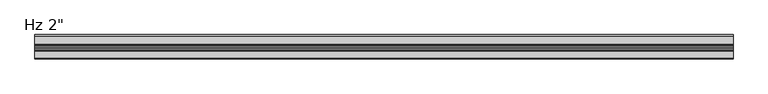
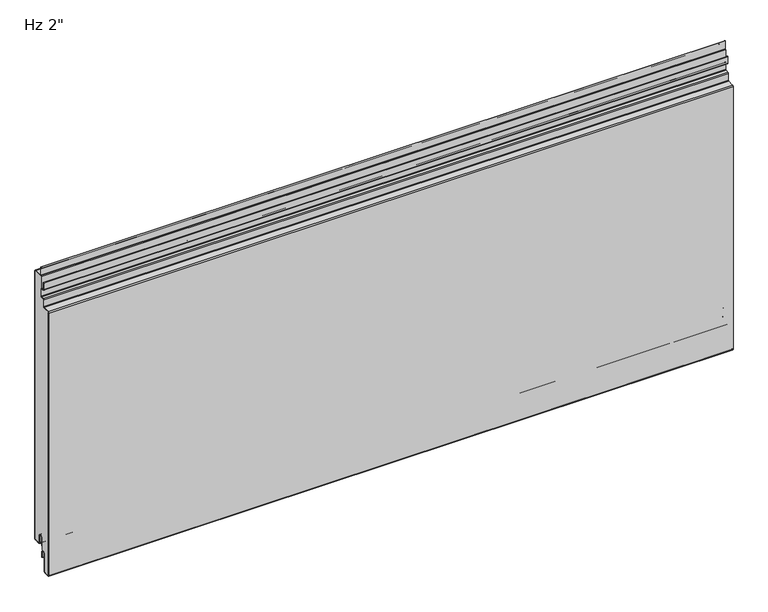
"""IFC4 building model written with IfcOpenShell, lengths in millimetres: plate geometry."""

import ifcopenshell
import ifcopenshell.guid

model = None  # the IFC model being written
_history = None  # IfcOwnerHistory: only IFC2X3 demands one
_inside = {}  # id of a spatial element -> (the spatial element, [elements in it])
_under = {}  # id of a project, library or spatial element -> (it, [spatial elements below it])
_declared = {}  # id of a project -> (the project, [libraries it declares])
_typed = {}  # id of a type object -> (the type object, [elements of that type])
_made_of = {}  # id of a material, layer set ... -> (it, [elements and type objects made of it])


def new_model(schema):
    """Start an empty IFC model of exactly this schema.

    Asked for "IFC4X3", IfcOpenShell would pick the latest addendum, in which some entities
    have other attributes; the version numbers below select the first issue.
    IFC2X3 requires an IfcOwnerHistory on every rooted entity: one is made here for all.
    """
    global model, _history
    if schema == "IFC4X3":
        model = ifcopenshell.file(schema_version=(4, 3, 0, 0))
    else:
        model = ifcopenshell.file(schema=schema)
    _inside.clear()
    _under.clear()
    _declared.clear()
    _typed.clear()
    _made_of.clear()
    _history = None
    if model.schema == "IFC2X3":
        org = make("IfcOrganization", Name="unknown")
        user = make(
            "IfcPersonAndOrganization",
            ThePerson=make("IfcPerson", FamilyName="unknown"),
            TheOrganization=org,
        )
        app = make(
            "IfcApplication",
            ApplicationDeveloper=org,
            Version="unknown",
            ApplicationFullName="unknown",
            ApplicationIdentifier="unknown",
        )
        _history = make(
            "IfcOwnerHistory",
            OwningUser=user,
            OwningApplication=app,
            ChangeAction="ADDED",
            CreationDate=0,
        )
    return model


def make(cls, **values):
    """One entity of the class cls with the attributes given. An attribute that is None is left unset."""
    return model.create_entity(
        cls, **{name: value for name, value in values.items() if value is not None}
    )


def rooted(cls, **values):
    """An entity with a GlobalId (a new one), such as an element, a storey or a relation."""
    return make(cls, GlobalId=ifcopenshell.guid.new(), OwnerHistory=_history, **values)


def si_unit(unit_type, name, prefix=None):
    """IfcSIUnit, for example si_unit("LENGTHUNIT", "METRE", prefix="MILLI")."""
    return make("IfcSIUnit", UnitType=unit_type, Prefix=prefix, Name=name)


def assignment(units):
    """IfcUnitAssignment: the units of a project."""
    return None if units is None else make("IfcUnitAssignment", Units=units)


def point(xyz):
    """IfcCartesianPoint."""
    return None if xyz is None else make("IfcCartesianPoint", Coordinates=xyz)


def direction(xyz):
    """IfcDirection."""
    return None if xyz is None else make("IfcDirection", DirectionRatios=xyz)


def frame(location, z_axis=None, x_axis=None):
    """IfcAxis2Placement3D, a coordinate frame: its origin and axes. An axis left out is left unset."""
    return make(
        "IfcAxis2Placement3D",
        Location=point(location),
        Axis=direction(z_axis),
        RefDirection=direction(x_axis),
    )


def frame_2d(location, x_axis=None):
    """IfcAxis2Placement2D, a coordinate frame in the plane: its origin and x axis."""
    return make(
        "IfcAxis2Placement2D", Location=point(location), RefDirection=direction(x_axis)
    )


def origin():
    """The frame at (0, 0, 0) with its axes left unset."""
    return frame((0.0, 0.0, 0.0))


def place(relative_to, where):
    """IfcLocalPlacement: puts the frame where relative to a parent placement (None: the world)."""
    return make(
        "IfcLocalPlacement", PlacementRelTo=relative_to, RelativePlacement=where
    )


def context(
    kind, dimensions, precision=None, world=None, true_north=None, identifier=None
):
    """IfcGeometricRepresentationContext, for example the 3D "Model" context."""
    return make(
        "IfcGeometricRepresentationContext",
        ContextIdentifier=identifier,
        ContextType=kind,
        CoordinateSpaceDimension=dimensions,
        Precision=precision,
        WorldCoordinateSystem=world,
        TrueNorth=true_north,
    )


def project(units=None, contexts=None):
    """IfcProject with its units and contexts."""
    return rooted(
        "IfcProject",
        Name="project",
        RepresentationContexts=contexts,
        UnitsInContext=assignment(units),
    )


def spatial(cls, under=None, at=None, **own):
    """A site, building, storey or space (cls), placed at a placement, below another one or the project."""
    s = rooted(cls, ObjectPlacement=at, **own)
    if under is not None:
        _under.setdefault(under.id(), (under, []))[1].append(s)
    return s


def polyline(points):
    """IfcPolyline through the points."""
    return make("IfcPolyline", Points=[point(p) for p in points])


def circle_curve(where, radius):
    """IfcCircle in the frame where."""
    return make("IfcCircle", Position=where, Radius=radius)


def ellipse_curve(where, semi_axis1, semi_axis2):
    """IfcEllipse in the frame where."""
    return make(
        "IfcEllipse", Position=where, SemiAxis1=semi_axis1, SemiAxis2=semi_axis2
    )


def trimmed(basis, trim1, trim2, sense, master):
    """IfcTrimmedCurve: the piece of a basis curve between two trims."""
    return make(
        "IfcTrimmedCurve",
        BasisCurve=basis,
        Trim1=trim1,
        Trim2=trim2,
        SenseAgreement=sense,
        MasterRepresentation=master,
    )


def segment(curve, same_sense, transition):
    """IfcCompositeCurveSegment."""
    return make(
        "IfcCompositeCurveSegment",
        Transition=transition,
        SameSense=same_sense,
        ParentCurve=curve,
    )


def composite_curve(segments, self_intersect=None):
    """IfcCompositeCurve: segments joined end to end."""
    return make("IfcCompositeCurve", Segments=segments, SelfIntersect=self_intersect)


def outline(outer, holes=None, kind="AREA"):
    """IfcArbitraryClosedProfileDef: a profile drawn as a closed curve; with holes, ...WithVoids."""
    if holes is None:
        return make("IfcArbitraryClosedProfileDef", ProfileType=kind, OuterCurve=outer)
    return make(
        "IfcArbitraryProfileDefWithVoids",
        ProfileType=kind,
        OuterCurve=outer,
        InnerCurves=holes,
    )


def extrude(swept, where, along, depth):
    """IfcExtrudedAreaSolid: the profile swept, set in the frame where, extruded along a direction by depth."""
    return make(
        "IfcExtrudedAreaSolid",
        SweptArea=swept,
        Position=where,
        ExtrudedDirection=direction(along),
        Depth=depth,
    )


def shape(context_of_items, identifier, shape_type, items):
    """IfcShapeRepresentation: the items that make up one representation, for example the "Body"."""
    return make(
        "IfcShapeRepresentation",
        ContextOfItems=context_of_items,
        RepresentationIdentifier=identifier,
        RepresentationType=shape_type,
        Items=items,
    )


def source(mapping_origin, context_of_items, identifier, shape_type, items):
    """IfcRepresentationMap: a shape defined once, which mapped items show again and again."""
    return make(
        "IfcRepresentationMap",
        MappingOrigin=mapping_origin,
        MappedRepresentation=shape(context_of_items, identifier, shape_type, items),
    )


def transform(
    local_origin,
    x_axis=None,
    y_axis=None,
    z_axis=None,
    scale=None,
    scale2=None,
    scale3=None,
    uniform=True,
):
    """IfcCartesianTransformationOperator3D, or its non-uniform kind. x_axis, y_axis, z_axis: its Axis1, 2, 3."""
    if uniform:
        return make(
            "IfcCartesianTransformationOperator3D",
            Axis1=direction(x_axis),
            Axis2=direction(y_axis),
            LocalOrigin=point(local_origin),
            Scale=scale,
            Axis3=direction(z_axis),
        )
    return make(
        "IfcCartesianTransformationOperator3DnonUniform",
        Axis1=direction(x_axis),
        Axis2=direction(y_axis),
        LocalOrigin=point(local_origin),
        Scale=scale,
        Axis3=direction(z_axis),
        Scale2=scale2,
        Scale3=scale3,
    )


def mapped(mapping_source, mapping_target):
    """IfcMappedItem: shows the shape of a source again, moved by a transform."""
    return make(
        "IfcMappedItem", MappingSource=mapping_source, MappingTarget=mapping_target
    )


def made_of(thing, what):
    """Note that an element or type object is made of a material, layer set ...; save() writes the relation."""
    if what is not None:
        _made_of.setdefault(what.id(), (what, []))[1].append(thing)
    return thing


def element(
    cls,
    number,
    at=None,
    inside=None,
    cuts=None,
    type_object=None,
    material=None,
    context=None,
    identifier="Body",
    shape_type=None,
    held_by="IfcProductDefinitionShape",
    body=None,
    shapes=None,
    **own,
):
    """One element of the class cls, such as IfcWall. Its Tag is "e" and its number.

    at: its placement. inside: the storey or other place that contains it. cuts: it is an
    opening in that element (IfcRelVoidsElement). A single representation is given by context,
    identifier, shape_type and body (its items); several are given by shapes. held_by: the class
    of the entity that holds the representations. save() writes the other relations.
    """
    e = rooted(cls, Tag="e%d" % number, ObjectPlacement=at, **own)
    if body is not None:
        shapes = [shape(context, identifier, shape_type, body)]
    if shapes is not None:
        e.Representation = make(held_by, Representations=shapes)
    if inside is not None:
        _inside.setdefault(inside.id(), (inside, []))[1].append(e)
    if cuts is not None:
        rooted(
            "IfcRelVoidsElement", RelatingBuildingElement=cuts, RelatedOpeningElement=e
        )
    if type_object is not None:
        _typed.setdefault(type_object.id(), (type_object, []))[1].append(e)
    return made_of(e, material)


def aggregate(whole, parts):
    """IfcRelAggregates: a whole, such as a stair, and the parts it consists of."""
    return rooted("IfcRelAggregates", RelatingObject=whole, RelatedObjects=parts)


def save(model, path):
    """Write the relations noted so far, then the file.

    IfcRelAggregates (storeys below a building ...), IfcRelContainedInSpatialStructure (elements
    in a storey), IfcRelDefinesByType, IfcRelAssociatesMaterial and IfcRelDeclares: one each for
    every whole, place, type object, material and project.
    """
    for whole, parts in _under.values():
        aggregate(whole, parts)
    for where, things in _inside.values():
        rooted(
            "IfcRelContainedInSpatialStructure",
            RelatedElements=things,
            RelatingStructure=where,
        )
    for kind, things in _typed.values():
        rooted("IfcRelDefinesByType", RelatedObjects=things, RelatingType=kind)
    for what, things in _made_of.values():
        rooted("IfcRelAssociatesMaterial", RelatedObjects=things, RelatingMaterial=what)
    for by, libraries in _declared.values():
        rooted("IfcRelDeclares", RelatingContext=by, RelatedDefinitions=libraries)
    model.write(path)


def plane_surface(at):
    """IfcPlane: the flat surface through the origin of the frame at, square to its z axis."""
    return make("IfcPlane", Position=at)


def cylinder_surface(at, radius):
    """IfcCylindricalSurface: all points at the distance radius from the z axis of the frame at."""
    return make("IfcCylindricalSurface", Position=at, Radius=radius)


def revolved_surface(curve, axis_point, axis_direction):
    """IfcSurfaceOfRevolution: the curve turned about the line through axis_point along axis_direction."""
    return make(
        "IfcSurfaceOfRevolution",
        SweptCurve=make("IfcArbitraryOpenProfileDef", ProfileType="CURVE", Curve=curve),
        AxisPosition=make("IfcAxis1Placement", Location=point(axis_point), Axis=direction(axis_direction)),
    )


def extruded_surface(curve, direction_of_extrusion, depth):
    """IfcSurfaceOfLinearExtrusion: the curve pushed along a direction by depth."""
    return make(
        "IfcSurfaceOfLinearExtrusion",
        SweptCurve=make("IfcArbitraryOpenProfileDef", ProfileType="CURVE", Curve=curve),
        ExtrudedDirection=direction(direction_of_extrusion),
        Depth=depth,
    )


def advanced_brep(points, edges, surfaces, faces):
    """IfcAdvancedBrep: a solid bounded by faces that lie on surfaces and meet in shared edges.

    An edge is (start, end): straight between two places in points (the first is 0);
    or (start, end, curve); or (start, end, curve, False) where it runs against its curve.
    A face is (place in surfaces, loops), or (place, loops, False) where it looks against
    its surface's normal. A loop lists edges by number (the first is 1), with a minus sign
    where the edge is run from its end to its start. The first loop is the outer one.
    """
    corners = [point(p) for p in points]
    vertices = [make("IfcVertexPoint", VertexGeometry=c) for c in corners]
    made = []
    for start, end, *more in edges:
        made.append(
            make(
                "IfcEdgeCurve",
                EdgeStart=vertices[start],
                EdgeEnd=vertices[end],
                EdgeGeometry=more[0] if more else make("IfcPolyline", Points=[corners[start], corners[end]]),
                SameSense=more[1] if len(more) > 1 else True,
            )
        )
    hull = []
    for where, loops, *sense in faces:
        bounds = []
        for j, loop in enumerate(loops):
            ring = [make("IfcOrientedEdge", EdgeElement=made[abs(k) - 1], Orientation=k > 0) for k in loop]
            bounds.append(
                make(
                    "IfcFaceOuterBound" if j == 0 else "IfcFaceBound",
                    Bound=make("IfcEdgeLoop", EdgeList=ring),
                    Orientation=True,
                )
            )
        hull.append(make("IfcAdvancedFace", Bounds=bounds, FaceSurface=surfaces[where], SameSense=sense[0] if sense else True))
    return make("IfcAdvancedBrep", Outer=make("IfcClosedShell", CfsFaces=hull))


def plate_8f768d0c(model_context):
    return source(origin(), model_context, "Body", "SolidModel", [
        extrude(outline(composite_curve([segment(polyline([(-22.8125, 564.5620957), (-22.8125, 607.80625), (-2.38125, 607.80625)]), True, "CONTINUOUS"), segment(trimmed(circle_curve(frame_2d((-2.38125, 606.425)), 1.38125), [point((-2.38125, 607.80625))], [point((-1.0, 606.425))], False, "CARTESIAN"), True, "CONTINUOUS"), segment(polyline([(-1.0, 606.425), (-1.0, 3.175)]), True, "CONTINUOUS"), segment(trimmed(circle_curve(frame_2d((-2.38125, 3.175)), 1.38125), [point((-1.0, 3.175))], [point((-2.38125, 1.79375))], False, "CARTESIAN"), True, "CONTINUOUS"), segment(polyline([(-2.38125, 1.79375), (-15.08125, 1.79375)]), True, "CONTINUOUS"), segment(trimmed(circle_curve(frame_2d((-15.08125, 3.175)), 1.38125), [point((-15.08125, 1.79375))], [point((-16.4625, 3.175))], False, "CARTESIAN"), True, "CONTINUOUS"), segment(polyline([(-16.4625, 3.175), (-16.4625, 19.05)]), True, "CONTINUOUS"), segment(trimmed(circle_curve(frame_2d((-21.43125, 19.05)), 4.96875), [point((-16.4625, 19.05))], [point((-26.4, 19.05))], True, "CARTESIAN"), True, "CONTINUOUS"), segment(polyline([(-26.4, 19.05), (-26.4, -6.9375), (-30.95625, -6.9375)]), True, "CONTINUOUS"), segment(trimmed(circle_curve(frame_2d((-30.95625, -11.90625)), 4.96875), [point((-30.95625, -6.9375))], [point((-35.925, -11.90625))], True, "CARTESIAN"), True, "CONTINUOUS"), segment(polyline([(-35.925, -11.90625), (-35.925, -50.0895546)]), True, "CONTINUOUS"), segment(trimmed(circle_curve(frame_2d((-37.30625, -50.0895546)), 1.38125), [point((-35.925, -50.0895546))], [point((-37.233961, -51.4689117))], False, "CARTESIAN"), True, "CONTINUOUS"), segment(polyline([(-37.233961, -51.4689117), (-48.346461, -52.0512931)]), True, "CONTINUOUS"), segment(trimmed(circle_curve(frame_2d((-48.41875, -50.6719361)), 1.38125), [point((-48.346461, -52.0512931))], [point((-49.8, -50.6719361))], False, "CARTESIAN"), True, "CONTINUOUS"), segment(polyline([(-49.8, -50.6719361), (-49.8, 541.4447607)]), True, "CONTINUOUS"), segment(trimmed(circle_curve(frame_2d((-48.41875, 541.4447607)), 1.38125), [point((-49.8, 541.4447607))], [point((-48.491039, 542.8241177))], False, "CARTESIAN"), True, "CONTINUOUS"), segment(polyline([(-48.491039, 542.8241177), (-34.7895807, 543.5421807)]), True, "CONTINUOUS"), segment(trimmed(circle_curve(frame_2d((-34.925, 546.1261347)), 2.5875), [point((-34.7895807, 543.5421807))], [point((-32.3375, 546.1261347))], True, "CARTESIAN"), True, "CONTINUOUS"), segment(polyline([(-32.3375, 546.1261347), (-32.3375, 560.2967085)]), True, "CONTINUOUS"), segment(trimmed(circle_curve(frame_2d((-30.95625, 560.2967085)), 1.38125), [point((-32.3375, 560.2967085))], [point((-31.028539, 561.6760655))], False, "CARTESIAN"), True, "CONTINUOUS"), segment(polyline([(-31.028539, 561.6760655), (-25.2645807, 561.9781418)]), True, "CONTINUOUS"), segment(trimmed(circle_curve(frame_2d((-25.4, 564.5620957)), 2.5875), [point((-25.2645807, 561.9781418))], [point((-22.8125, 564.5620957))], True, "CARTESIAN"), True, "CONTINUOUS")], self_intersect=False)), frame((-730.0, 0.0, 0.0), z_axis=(1.0, 0.0, 0.0), x_axis=(0.0, 1.0, 0.0)), (0.0, 0.0, 1.0), 1460.0),
        extrude(outline(composite_curve([segment(polyline([(-25.4, 0.79375), (-26.4, 0.79375), (-26.4, 19.05)]), True, "CONTINUOUS"), segment(trimmed(circle_curve(frame_2d((-21.43125, 19.05)), 4.96875), [point((-26.4, 19.05))], [point((-16.4625, 19.05))], False, "CARTESIAN"), True, "CONTINUOUS"), segment(polyline([(-16.4625, 19.05), (-16.4625, 3.175)]), True, "CONTINUOUS"), segment(trimmed(circle_curve(frame_2d((-15.08125, 3.175)), 1.38125), [point((-16.4625, 3.175))], [point((-15.08125, 1.79375))], True, "CARTESIAN"), True, "CONTINUOUS"), segment(polyline([(-15.08125, 1.79375), (-2.38125, 1.79375)]), True, "CONTINUOUS"), segment(trimmed(circle_curve(frame_2d((-2.38125, 3.175)), 1.38125), [point((-2.38125, 1.79375))], [point((-1.0, 3.175))], True, "CARTESIAN"), True, "CONTINUOUS"), segment(polyline([(-1.0, 3.175), (-1.0, 606.425)]), True, "CONTINUOUS"), segment(trimmed(circle_curve(frame_2d((-2.38125, 606.425)), 1.38125), [point((-1.0, 606.425))], [point((-2.38125, 607.80625))], True, "CARTESIAN"), True, "CONTINUOUS"), segment(polyline([(-2.38125, 607.80625), (-19.446875, 607.80625)]), True, "CONTINUOUS"), segment(trimmed(circle_curve(frame_2d((-19.446875, 610.39375)), 2.5875), [point((-19.446875, 607.80625))], [point((-22.034375, 610.39375))], False, "CARTESIAN"), True, "CONTINUOUS"), segment(polyline([(-22.034375, 610.39375), (-22.034375, 627.85625), (-21.034375, 627.85625), (-21.034375, 610.39375)]), True, "CONTINUOUS"), segment(trimmed(circle_curve(frame_2d((-19.446875, 610.39375)), 1.5875), [point((-21.034375, 610.39375))], [point((-19.446875, 608.80625))], True, "CARTESIAN"), True, "CONTINUOUS"), segment(polyline([(-19.446875, 608.80625), (-2.38125, 608.80625)]), True, "CONTINUOUS"), segment(trimmed(circle_curve(frame_2d((-2.38125, 606.425)), 2.38125), [point((-2.38125, 608.80625))], [point((0.0, 606.425))], False, "CARTESIAN"), True, "CONTINUOUS"), segment(polyline([(0.0, 606.425), (0.0, 3.175)]), True, "CONTINUOUS"), segment(trimmed(circle_curve(frame_2d((-2.38125, 3.175)), 2.38125), [point((0.0, 3.175))], [point((-2.38125, 0.79375))], False, "CARTESIAN"), True, "CONTINUOUS"), segment(polyline([(-2.38125, 0.79375), (-15.08125, 0.79375)]), True, "CONTINUOUS"), segment(trimmed(circle_curve(frame_2d((-15.08125, 3.175)), 2.38125), [point((-15.08125, 0.79375))], [point((-17.4625, 3.175))], False, "CARTESIAN"), True, "CONTINUOUS"), segment(polyline([(-17.4625, 3.175), (-17.4625, 19.05)]), True, "CONTINUOUS"), segment(trimmed(circle_curve(frame_2d((-21.43125, 19.05)), 3.96875), [point((-17.4625, 19.05))], [point((-25.4, 19.05))], True, "CARTESIAN"), True, "CONTINUOUS"), segment(polyline([(-25.4, 19.05), (-25.4, 0.79375)]), True, "CONTINUOUS")], self_intersect=False)), frame((-730.0, 0.0, 0.0), z_axis=(1.0, 0.0, 0.0), x_axis=(0.0, 1.0, 0.0)), (0.0, 0.0, 1.0), 1460.0),
        advanced_brep(
        [(-730.0, -25.4, -23.2314549), (-730.0, -26.9875, -23.2314549), (-730.0, -26.9875, -11.9205174), (-730.0, -34.925, -11.9205174), (-730.0, -34.925, -50.1038221), (-730.0, -37.181625, -52.4818086), (-730.0, -48.294125, -53.0641901), (-730.0, -50.8, -50.6862035), (-730.0, -50.8, 541.4447607), (-730.0, -48.543375, 543.8227473), (-730.0, -34.8419167, 544.5408103), (-730.0, -33.3375, 546.1261347), (-730.0, -33.3375, 560.2824411), (-730.0, -31.080875, 562.6604276), (-730.0, -25.3169167, 562.9625039), (-730.0, -23.8125, 564.5478283), (-730.0, -23.8125, 579.4232326), (-730.0, -25.4, 581.0107326), (-730.0, -29.5671875, 581.0107326), (-730.0, -31.9484375, 583.3919826), (-730.0, -31.9484375, 597.8836032), (-730.0, -30.1546875, 597.8836032), (-730.0, -30.1546875, 588.1544826), (-730.0, -30.9484375, 588.1544826), (-730.0, -30.9484375, 583.3919826), (-730.0, -29.5671875, 582.0107326), (-730.0, -25.4, 582.0107326), (-730.0, -22.8125, 579.4232326), (-730.0, -22.8125, 564.5478283), (-730.0, -25.2645807, 561.9638744), (-730.0, -31.028539, 561.6617981), (-730.0, -32.3375, 560.2824411), (-730.0, -32.3375, 546.1261347), (-730.0, -34.7895807, 543.5421807), (-730.0, -48.491039, 542.8241177), (-730.0, -49.8, 541.4447607), (-730.0, -49.8, -50.6862035), (-730.0, -48.346461, -52.0655606), (-730.0, -37.233961, -51.4831791), (-730.0, -35.925, -50.1038221), (-730.0, -35.925, -11.9205174), (-730.0, -25.9875, -11.9205174), (-730.0, -26.19375, -13.5080174), (-730.0, -25.4, -13.5080174), (730.0, -25.4, -23.2314549), (730.0, -25.4, -13.5080174), (730.0, -26.19375, -13.5080174), (730.0, -25.9875, -11.9205174), (730.0, -35.925, -11.9205174), (730.0, -35.925, -50.1038221), (730.0, -37.233961, -51.4831791), (730.0, -48.346461, -52.0655606), (730.0, -49.8, -50.6862035), (730.0, -49.8, 541.4447607), (730.0, -48.491039, 542.8241177), (730.0, -34.7895807, 543.5421807), (730.0, -32.3375, 546.1261347), (730.0, -32.3375, 560.2824411), (730.0, -31.028539, 561.6617981), (730.0, -25.2645807, 561.9638744), (730.0, -22.8125, 564.5478283), (730.0, -22.8125, 579.4232326), (730.0, -25.4, 582.0107326), (730.0, -29.5671875, 582.0107326), (730.0, -30.9484375, 583.3919826), (730.0, -30.9484375, 588.1544826), (730.0, -30.1546875, 588.1544826), (730.0, -30.1546875, 597.8836032), (730.0, -31.9484375, 597.8836032), (730.0, -31.9484375, 583.3919826), (730.0, -29.5671875, 581.0107326), (730.0, -25.4, 581.0107326), (730.0, -23.8125, 579.4232326), (730.0, -23.8125, 564.5478283), (730.0, -25.3169167, 562.9625039), (730.0, -31.080875, 562.6604276), (730.0, -33.3375, 560.2824411), (730.0, -33.3375, 546.1261347), (730.0, -34.8419167, 544.5408103), (730.0, -48.543375, 543.8227473), (730.0, -50.8, 541.4447607), (730.0, -50.8, -50.6862035), (730.0, -48.294125, -53.0641901), (730.0, -37.181625, -52.4818086), (730.0, -34.925, -50.1038221), (730.0, -34.925, -11.9205174), (730.0, -26.9875, -11.9205174), (730.0, -26.9875, -23.2314549)],
        [
            (0, 1, circle_curve(frame((-730.0, -26.19375, -23.2314549), z_axis=(-1.0, 0.0, 0.0), x_axis=(0.0, 0.0, 1.0)), 0.79375)),
            (1, 2),
            (2, 3, circle_curve(frame((-730.0, -30.95625, -11.9205174), z_axis=(1.0, 0.0, 0.0), x_axis=(0.0, 0.0, 1.0)), 3.96875)),
            (3, 4),
            (4, 5, circle_curve(frame((-730.0, -37.30625, -50.1038221), z_axis=(-1.0, 0.0, 0.0), x_axis=(0.0, 0.0, 1.0)), 2.38125)),
            (5, 6),
            (6, 7, circle_curve(frame((-730.0, -48.41875, -50.6862035), z_axis=(-1.0, 0.0, 0.0), x_axis=(0.0, 0.0, 1.0)), 2.38125)),
            (7, 8),
            (8, 9, circle_curve(frame((-730.0, -48.41875, 541.4447607), z_axis=(-1.0, 0.0, 0.0), x_axis=(0.0, 0.0, 1.0)), 2.38125)),
            (9, 10),
            (10, 11, circle_curve(frame((-730.0, -34.925, 546.1261347), z_axis=(1.0, 0.0, 0.0), x_axis=(0.0, 0.0, 1.0)), 1.5875)),
            (11, 12),
            (12, 13, circle_curve(frame((-730.0, -30.95625, 560.2824411), z_axis=(-1.0, 0.0, 0.0), x_axis=(0.0, 0.0, 1.0)), 2.38125)),
            (13, 14),
            (14, 15, circle_curve(frame((-730.0, -25.4, 564.5478283), z_axis=(1.0, 0.0, 0.0), x_axis=(0.0, 0.0, 1.0)), 1.5875)),
            (15, 16),
            (16, 17, circle_curve(frame((-730.0, -25.4, 579.4232326), z_axis=(1.0, 0.0, 0.0), x_axis=(0.0, 0.0, 1.0)), 1.5875)),
            (17, 18),
            (18, 19, circle_curve(frame((-730.0, -29.5671875, 583.3919826), z_axis=(-1.0, 0.0, 0.0), x_axis=(0.0, 0.0, 1.0)), 2.38125)),
            (19, 20),
            (20, 21, ellipse_curve(frame((-730.0, -31.0515625, 597.8836032), z_axis=(-1.0, 0.0, 0.0), x_axis=(0.0, 1.0, 0.0)), 0.896875, 0.7852275)),
            (21, 22),
            (22, 23),
            (23, 24),
            (24, 25, circle_curve(frame((-730.0, -29.5671875, 583.3919826), z_axis=(1.0, 0.0, 0.0), x_axis=(0.0, 0.0, 1.0)), 1.38125)),
            (25, 26),
            (26, 27, circle_curve(frame((-730.0, -25.4, 579.4232326), z_axis=(-1.0, 0.0, 0.0), x_axis=(0.0, 0.0, 1.0)), 2.5875)),
            (27, 28),
            (28, 29, circle_curve(frame((-730.0, -25.4, 564.5478283), z_axis=(-1.0, 0.0, 0.0), x_axis=(0.0, 0.0, 1.0)), 2.5875)),
            (29, 30),
            (30, 31, circle_curve(frame((-730.0, -30.95625, 560.2824411), z_axis=(1.0, 0.0, 0.0), x_axis=(0.0, 0.0, 1.0)), 1.38125)),
            (31, 32),
            (32, 33, circle_curve(frame((-730.0, -34.925, 546.1261347), z_axis=(-1.0, 0.0, 0.0), x_axis=(0.0, 0.0, 1.0)), 2.5875)),
            (33, 34),
            (34, 35, circle_curve(frame((-730.0, -48.41875, 541.4447607), z_axis=(1.0, 0.0, 0.0), x_axis=(0.0, 0.0, 1.0)), 1.38125)),
            (35, 36),
            (36, 37, circle_curve(frame((-730.0, -48.41875, -50.6862035), z_axis=(1.0, 0.0, 0.0), x_axis=(0.0, 0.0, 1.0)), 1.38125)),
            (37, 38),
            (38, 39, circle_curve(frame((-730.0, -37.30625, -50.1038221), z_axis=(1.0, 0.0, 0.0), x_axis=(0.0, 0.0, 1.0)), 1.38125)),
            (39, 40),
            (40, 41, circle_curve(frame((-730.0, -30.95625, -11.9205174), z_axis=(-1.0, 0.0, 0.0), x_axis=(0.0, 0.0, 1.0)), 4.96875)),
            (41, 42),
            (42, 43),
            (43, 0),
            (44, 45),
            (45, 46),
            (46, 47),
            (47, 48, circle_curve(frame((730.0, -30.95625, -11.9205174), z_axis=(1.0, 0.0, 0.0), x_axis=(0.0, 0.0, 1.0)), 4.96875)),
            (48, 49),
            (49, 50, circle_curve(frame((730.0, -37.30625, -50.1038221), z_axis=(-1.0, 0.0, 0.0), x_axis=(0.0, 0.0, 1.0)), 1.38125)),
            (50, 51),
            (51, 52, circle_curve(frame((730.0, -48.41875, -50.6862035), z_axis=(-1.0, 0.0, 0.0), x_axis=(0.0, 0.0, 1.0)), 1.38125)),
            (52, 53),
            (53, 54, circle_curve(frame((730.0, -48.41875, 541.4447607), z_axis=(-1.0, 0.0, 0.0), x_axis=(0.0, 0.0, 1.0)), 1.38125)),
            (54, 55),
            (55, 56, circle_curve(frame((730.0, -34.925, 546.1261347), z_axis=(1.0, 0.0, 0.0), x_axis=(0.0, 0.0, 1.0)), 2.5875)),
            (56, 57),
            (57, 58, circle_curve(frame((730.0, -30.95625, 560.2824411), z_axis=(-1.0, 0.0, 0.0), x_axis=(0.0, 0.0, 1.0)), 1.38125)),
            (58, 59),
            (59, 60, circle_curve(frame((730.0, -25.4, 564.5478283), z_axis=(1.0, 0.0, 0.0), x_axis=(0.0, 0.0, 1.0)), 2.5875)),
            (60, 61),
            (61, 62, circle_curve(frame((730.0, -25.4, 579.4232326), z_axis=(1.0, 0.0, 0.0), x_axis=(0.0, 0.0, 1.0)), 2.5875)),
            (62, 63),
            (63, 64, circle_curve(frame((730.0, -29.5671875, 583.3919826), z_axis=(-1.0, 0.0, 0.0), x_axis=(0.0, 0.0, 1.0)), 1.38125)),
            (64, 65),
            (65, 66),
            (66, 67),
            (67, 68, ellipse_curve(frame((730.0, -31.0515625, 597.8836032), z_axis=(1.0, 0.0, 0.0), x_axis=(0.0, 1.0, 0.0)), 0.896875, 0.7852275)),
            (68, 69),
            (69, 70, circle_curve(frame((730.0, -29.5671875, 583.3919826), z_axis=(1.0, 0.0, 0.0), x_axis=(0.0, 0.0, 1.0)), 2.38125)),
            (70, 71),
            (71, 72, circle_curve(frame((730.0, -25.4, 579.4232326), z_axis=(-1.0, 0.0, 0.0), x_axis=(0.0, 0.0, 1.0)), 1.5875)),
            (72, 73),
            (73, 74, circle_curve(frame((730.0, -25.4, 564.5478283), z_axis=(-1.0, 0.0, 0.0), x_axis=(0.0, 0.0, 1.0)), 1.5875)),
            (74, 75),
            (75, 76, circle_curve(frame((730.0, -30.95625, 560.2824411), z_axis=(1.0, 0.0, 0.0), x_axis=(0.0, 0.0, 1.0)), 2.38125)),
            (76, 77),
            (77, 78, circle_curve(frame((730.0, -34.925, 546.1261347), z_axis=(-1.0, 0.0, 0.0), x_axis=(0.0, 0.0, 1.0)), 1.5875)),
            (78, 79),
            (79, 80, circle_curve(frame((730.0, -48.41875, 541.4447607), z_axis=(1.0, 0.0, 0.0), x_axis=(0.0, 0.0, 1.0)), 2.38125)),
            (80, 81),
            (81, 82, circle_curve(frame((730.0, -48.41875, -50.6862035), z_axis=(1.0, 0.0, 0.0), x_axis=(0.0, 0.0, 1.0)), 2.38125)),
            (82, 83),
            (83, 84, circle_curve(frame((730.0, -37.30625, -50.1038221), z_axis=(1.0, 0.0, 0.0), x_axis=(0.0, 0.0, 1.0)), 2.38125)),
            (84, 85),
            (85, 86, circle_curve(frame((730.0, -30.95625, -11.9205174), z_axis=(-1.0, 0.0, 0.0), x_axis=(0.0, 0.0, 1.0)), 3.96875)),
            (86, 87),
            (87, 44, circle_curve(frame((730.0, -26.19375, -23.2314549), z_axis=(1.0, 0.0, 0.0), x_axis=(0.0, 0.0, 1.0)), 0.79375)),
            (43, 45),
            (44, 0),
            (36, 52),
            (51, 37),
            (50, 38),
            (49, 39),
            (48, 40),
            (47, 41),
            (42, 46),
            (22, 66),
            (65, 23),
            (21, 67),
            (20, 68),
            (34, 54),
            (53, 35),
            (32, 56),
            (55, 33),
            (30, 58),
            (57, 31),
            (28, 60),
            (59, 29),
            (24, 64),
            (63, 25),
            (26, 62),
            (61, 27),
            (19, 69),
            (17, 71),
            (70, 18),
            (15, 73),
            (72, 16),
            (13, 75),
            (74, 14),
            (11, 77),
            (76, 12),
            (9, 79),
            (78, 10),
            (7, 81),
            (80, 8),
            (5, 83),
            (82, 6),
            (3, 85),
            (84, 4),
            (1, 87),
            (86, 2),
        ],
        [
            plane_surface(frame((-730.0, -50.8, 304.8), z_axis=(-1.0, 0.0, 0.0), x_axis=(0.0, -1.0, 0.0))),
            plane_surface(frame((730.0, -50.8, 304.8), z_axis=(1.0, 0.0, 0.0), x_axis=(0.0, -1.0, 0.0))),
            plane_surface(frame((-730.0, -25.4, -23.2314549), z_axis=(0.0, 1.0, 0.0), x_axis=(1.0, 0.0, 0.0))),
            revolved_surface(polyline([(730.0, -48.41875, -49.304953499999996), (-730.0, -48.41875, -49.304953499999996)]), (-730.0, -48.41875, -50.6862035), (1.0, 0.0, 0.0)),
            plane_surface(frame((-730.0, -37.233961, -51.4831791), z_axis=(0.0, -0.052335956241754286, 0.9986295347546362), x_axis=(1.0, 0.0, 0.0))),
            revolved_surface(polyline([(730.0, -37.30625, -48.7225721), (-730.0, -37.30625, -48.7225721)]), (-730.0, -37.30625, -50.1038221), (1.0, 0.0, 0.0)),
            plane_surface(frame((-730.0, -35.925, -11.9205174), z_axis=(0.0, -1.0, 0.0), x_axis=(1.0, 0.0, 0.0))),
            cylinder_surface(frame((-730.0, -30.95625, -11.9205174), z_axis=(-1.0, 0.0, 0.0), x_axis=(0.0, 0.0, 1.0)), 4.96875),
            plane_surface(frame((-730.0, -25.4, -13.5080174), z_axis=(0.0, 0.0, 1.0), x_axis=(1.0, 0.0, 0.0))),
            plane_surface(frame((-730.0, -26.19375, -13.5080174), z_axis=(0.0, 0.9916655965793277, -0.12883844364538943), x_axis=(1.0, 0.0, 0.0))),
            plane_surface(frame((-730.0, -30.9484375, 588.1544826), z_axis=(0.0, 0.0, -1.0), x_axis=(1.0, 0.0, 0.0))),
            plane_surface(frame((-730.0, -30.1546875, 588.1544826), z_axis=(0.0, 1.0, 0.0), x_axis=(1.0, 0.0, 0.0))),
            extruded_surface(trimmed(ellipse_curve(frame((-730.0, -31.0515625, 597.8836032), z_axis=(1.0, 0.0, 0.0), x_axis=(0.0, 1.0, 0.0)), 0.896875, 0.7852275), [point((-730.0, -30.1546875, 597.8836032))], [point((-730.0, -31.9484375, 597.8836032))], True, "CARTESIAN"), (1460.0, 0.0, 0.0), 1460.0),
            revolved_surface(polyline([(730.0, -48.41875, 542.8260107), (-730.0, -48.41875, 542.8260107)]), (-730.0, -48.41875, 541.4447607), (1.0, 0.0, 0.0)),
            cylinder_surface(frame((-730.0, -34.925, 546.1261347), z_axis=(-1.0, 0.0, 0.0), x_axis=(0.0, 0.0, 1.0)), 2.5875),
            plane_surface(frame((-730.0, -48.491039, 542.8241177), z_axis=(0.0, 0.052335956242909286, -0.9986295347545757), x_axis=(1.0, 0.0, 0.0))),
            plane_surface(frame((-730.0, -49.8, -50.6862035), z_axis=(0.0, 1.0, 0.0), x_axis=(1.0, 0.0, 0.0))),
            revolved_surface(polyline([(730.0, -30.95625, 561.6636911), (-730.0, -30.95625, 561.6636911)]), (-730.0, -30.95625, 560.2824411), (1.0, 0.0, 0.0)),
            cylinder_surface(frame((-730.0, -25.4, 564.5478283), z_axis=(-1.0, 0.0, 0.0), x_axis=(0.0, 0.0, 1.0)), 2.5875),
            plane_surface(frame((-730.0, -31.028539, 561.6617981), z_axis=(0.0, 0.0523359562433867, -0.9986295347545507), x_axis=(1.0, 0.0, 0.0))),
            plane_surface(frame((-730.0, -32.3375, 546.1261347), z_axis=(0.0, 1.0, 0.0), x_axis=(1.0, 0.0, 0.0))),
            revolved_surface(polyline([(730.0, -29.5671875, 584.7732326), (-730.0, -29.5671875, 584.7732326)]), (-730.0, -29.5671875, 583.3919826), (1.0, 0.0, 0.0)),
            cylinder_surface(frame((-730.0, -25.4, 579.4232326), z_axis=(-1.0, 0.0, 0.0), x_axis=(0.0, 0.0, 1.0)), 2.5875),
            plane_surface(frame((-730.0, -25.4, 582.0107326), z_axis=(0.0, 0.0, 1.0), x_axis=(1.0, 0.0, 0.0))),
            plane_surface(frame((-730.0, -30.9484375, 583.3919826), z_axis=(0.0, 1.0, 0.0), x_axis=(1.0, 0.0, 0.0))),
            plane_surface(frame((-730.0, -31.9484375, 597.8836032), z_axis=(0.0, -1.0, 0.0), x_axis=(1.0, 0.0, 0.0))),
            plane_surface(frame((-730.0, -29.5671875, 581.0107326), z_axis=(0.0, 0.0, -1.0), x_axis=(1.0, 0.0, 0.0))),
            cylinder_surface(frame((-730.0, -29.5671875, 583.3919826), z_axis=(-1.0, 0.0, 0.0), x_axis=(0.0, 0.0, 1.0)), 2.38125),
            plane_surface(frame((-730.0, -22.8125, 564.5478283), z_axis=(0.0, 1.0, 0.0), x_axis=(1.0, 0.0, 0.0))),
            plane_surface(frame((-730.0, -23.8125, 579.4232326), z_axis=(0.0, -1.0, 0.0), x_axis=(1.0, 0.0, 0.0))),
            plane_surface(frame((-730.0, -25.3169167, 562.9625039), z_axis=(0.0, -0.052335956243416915, 0.9986295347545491), x_axis=(1.0, 0.0, 0.0))),
            revolved_surface(polyline([(730.0, -25.4, 566.1353283), (-730.0, -25.4, 566.1353283)]), (-730.0, -25.4, 564.5478283), (1.0, 0.0, 0.0)),
            revolved_surface(polyline([(730.0, -25.4, 581.0107326), (-730.0, -25.4, 581.0107326)]), (-730.0, -25.4, 579.4232326), (1.0, 0.0, 0.0)),
            plane_surface(frame((-730.0, -33.3375, 560.2824411), z_axis=(0.0, -1.0, 0.0), x_axis=(1.0, 0.0, 0.0))),
            plane_surface(frame((-730.0, -34.8419167, 544.5408103), z_axis=(0.0, -0.052335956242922, 0.998629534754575), x_axis=(1.0, 0.0, 0.0))),
            revolved_surface(polyline([(730.0, -34.925, 547.7136347), (-730.0, -34.925, 547.7136347)]), (-730.0, -34.925, 546.1261347), (1.0, 0.0, 0.0)),
            cylinder_surface(frame((-730.0, -30.95625, 560.2824411), z_axis=(-1.0, 0.0, 0.0), x_axis=(0.0, 0.0, 1.0)), 2.38125),
            plane_surface(frame((-730.0, -50.8, 541.4447607), z_axis=(0.0, -1.0, 0.0), x_axis=(1.0, 0.0, 0.0))),
            plane_surface(frame((-730.0, -48.294125, -53.0641901), z_axis=(0.0, 0.052335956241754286, -0.9986295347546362), x_axis=(1.0, 0.0, 0.0))),
            cylinder_surface(frame((-730.0, -48.41875, -50.6862035), z_axis=(-1.0, 0.0, 0.0), x_axis=(0.0, 0.0, 1.0)), 2.38125),
            cylinder_surface(frame((-730.0, -48.41875, 541.4447607), z_axis=(-1.0, 0.0, 0.0), x_axis=(0.0, 0.0, 1.0)), 2.38125),
            plane_surface(frame((-730.0, -34.925, -50.1038221), z_axis=(0.0, 1.0, 0.0), x_axis=(1.0, 0.0, 0.0))),
            plane_surface(frame((-730.0, -26.9875, -11.9205174), z_axis=(0.0, -1.0, 0.0), x_axis=(1.0, 0.0, 0.0))),
            revolved_surface(polyline([(730.0, -30.95625, -7.9517674), (-730.0, -30.95625, -7.9517674)]), (-730.0, -30.95625, -11.9205174), (1.0, 0.0, 0.0)),
            cylinder_surface(frame((-730.0, -37.30625, -50.1038221), z_axis=(-1.0, 0.0, 0.0), x_axis=(0.0, 0.0, 1.0)), 2.38125),
            cylinder_surface(frame((-730.0, -26.19375, -23.2314549), z_axis=(-1.0, 0.0, 0.0), x_axis=(0.0, 0.0, 1.0)), 0.79375),
        ],
        [
            (0, [[1, 2, 3, 4, 5, 6, 7, 8, 9, 10, 11, 12, 13, 14, 15, 16, 17, 18, 19, 20, 21, 22, 23, 24, 25, 26, 27, 28, 29, 30, 31, 32, 33, 34, 35, 36, 37, 38, 39, 40, 41, 42, 43, 44]]),
            (1, [[45, 46, 47, 48, 49, 50, 51, 52, 53, 54, 55, 56, 57, 58, 59, 60, 61, 62, 63, 64, 65, 66, 67, 68, 69, 70, 71, 72, 73, 74, 75, 76, 77, 78, 79, 80, 81, 82, 83, 84, 85, 86, 87, 88]]),
            (2, [[89, -45, 90, -44]]),
            (3, [[91, -52, 92, -37]]),
            (4, [[-92, -51, 93, -38]]),
            (5, [[-93, -50, 94, -39]]),
            (6, [[-94, -49, 95, -40]]),
            (7, [[-95, -48, 96, -41]]),
            (8, [[97, -46, -89, -43]]),
            (9, [[-96, -47, -97, -42]]),
            (10, [[98, -66, 99, -23]]),
            (11, [[100, -67, -98, -22]]),
            (12, [[101, -68, -100, -21]]),
            (13, [[102, -54, 103, -35]]),
            (14, [[104, -56, 105, -33]]),
            (15, [[-105, -55, -102, -34]]),
            (16, [[-103, -53, -91, -36]]),
            (17, [[106, -58, 107, -31]]),
            (18, [[108, -60, 109, -29]]),
            (19, [[-109, -59, -106, -30]]),
            (20, [[-107, -57, -104, -32]]),
            (21, [[110, -64, 111, -25]]),
            (22, [[112, -62, 113, -27]]),
            (23, [[-111, -63, -112, -26]]),
            (24, [[-99, -65, -110, -24]]),
            (25, [[114, -69, -101, -20]]),
            (26, [[115, -71, 116, -18]]),
            (27, [[-116, -70, -114, -19]]),
            (28, [[-113, -61, -108, -28]]),
            (29, [[117, -73, 118, -16]]),
            (30, [[119, -75, 120, -14]]),
            (31, [[-120, -74, -117, -15]]),
            (32, [[-118, -72, -115, -17]]),
            (33, [[121, -77, 122, -12]]),
            (34, [[123, -79, 124, -10]]),
            (35, [[-124, -78, -121, -11]]),
            (36, [[-122, -76, -119, -13]]),
            (37, [[125, -81, 126, -8]]),
            (38, [[127, -83, 128, -6]]),
            (39, [[-128, -82, -125, -7]]),
            (40, [[-126, -80, -123, -9]]),
            (41, [[129, -85, 130, -4]]),
            (42, [[131, -87, 132, -2]]),
            (43, [[-132, -86, -129, -3]]),
            (44, [[-130, -84, -127, -5]]),
            (45, [[-90, -88, -131, -1]]),
        ],
    ),
    ])


if __name__ == "__main__":
    model = new_model("IFC4")
    model_context = context("Model", 3, world=origin())
    ifc_project = project(units=[si_unit("LENGTHUNIT", "METRE", prefix="MILLI")], contexts=[model_context])
    site = spatial("IfcSite", under=ifc_project)
    building = spatial("IfcBuilding", under=site)
    placement = place(None, origin())
    plate_shape = plate_8f768d0c(model_context)
    element("IfcPlate", 1, ObjectType="KIP-24-DWHR-R19-CP-Hz-F : Hz 2\"", at=placement, inside=building, context=model_context, shape_type="MappedRepresentation", body=[
        mapped(plate_shape, transform((0.0, 0.0, 0.0), x_axis=(1.0, 0.0, 0.0), y_axis=(0.0, 1.0, 0.0), z_axis=(0.0, 0.0, 1.0))),
    ])
    save(model, "model.ifc")
